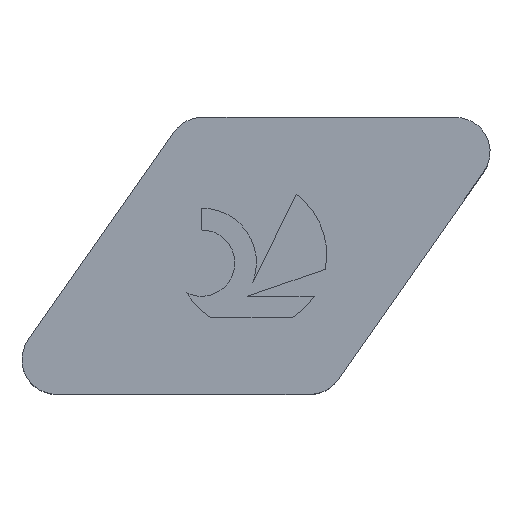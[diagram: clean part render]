
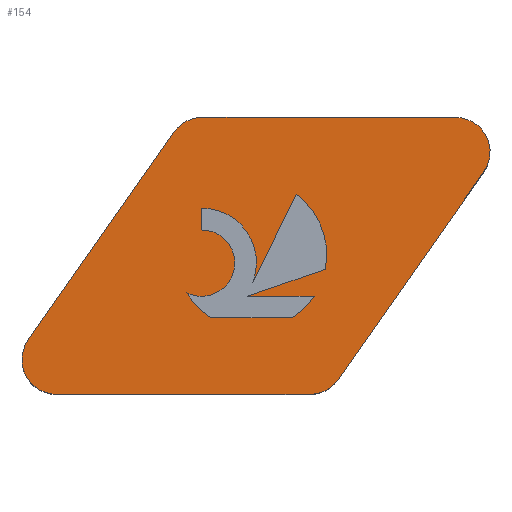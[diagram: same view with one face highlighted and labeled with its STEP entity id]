
A CAD part, top view. The second image highlights one B-rep face of the part: STEP entity #154.
In plain terms, the highlighted planar face has unit normal (0, 0, 1).
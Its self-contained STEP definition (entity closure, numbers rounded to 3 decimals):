
#142=EDGE_CURVE('',#282,#270,#394,.T.);
#150=VERTEX_POINT('',#402);
#152=VERTEX_POINT('',#404);
#154=ADVANCED_FACE('',(#406,#407),#408,.T.);
#156=EDGE_CURVE('',#280,#276,#410,.T.);
#164=EDGE_CURVE('',#206,#352,#418,.T.);
#168=EDGE_CURVE('',#352,#280,#422,.T.);
#170=VERTEX_POINT('',#424);
#178=VERTEX_POINT('',#432);
#186=EDGE_CURVE('',#232,#152,#440,.T.);
#196=EDGE_CURVE('',#248,#282,#452,.T.);
#202=EDGE_CURVE('',#170,#376,#458,.T.);
#204=VERTEX_POINT('',#460);
#206=VERTEX_POINT('',#462);
#210=VERTEX_POINT('',#466);
#212=EDGE_CURVE('',#360,#214,#468,.T.);
#214=VERTEX_POINT('',#470);
#216=EDGE_CURVE('',#270,#226,#472,.T.);
#226=VERTEX_POINT('',#484);
#232=VERTEX_POINT('',#492);
#240=EDGE_CURVE('',#150,#210,#500,.T.);
#242=EDGE_CURVE('',#210,#248,#502,.T.);
#248=VERTEX_POINT('',#508);
#270=VERTEX_POINT('',#534);
#276=VERTEX_POINT('',#541);
#278=EDGE_CURVE('',#152,#204,#543,.T.);
#280=VERTEX_POINT('',#545);
#282=VERTEX_POINT('',#547);
#292=EDGE_CURVE('',#214,#206,#559,.T.);
#294=EDGE_CURVE('',#276,#170,#561,.T.);
#296=VERTEX_POINT('',#563);
#310=EDGE_CURVE('',#296,#150,#580,.T.);
#314=EDGE_CURVE('',#226,#178,#584,.T.);
#336=EDGE_CURVE('',#376,#232,#609,.T.);
#352=VERTEX_POINT('',#627);
#356=EDGE_CURVE('',#204,#360,#631,.T.);
#358=EDGE_CURVE('',#178,#296,#633,.T.);
#360=VERTEX_POINT('',#635);
#376=VERTEX_POINT('',#651);
#394=CIRCLE('',#660,1.191);
#402=CARTESIAN_POINT('',(2.288,0.0,0.0));
#404=CARTESIAN_POINT('',(8.863,3.376,0.0));
#406=FACE_BOUND('',#671,.T.);
#407=FACE_OUTER_BOUND('',#672,.T.);
#408=PLANE('',#673);
#410=LINE('',#676,#677);
#418=CIRCLE('',#688,1.141);
#422=CIRCLE('',#694,1.141);
#424=CARTESIAN_POINT('',(9.038,3.853,0.0));
#432=CARTESIAN_POINT('',(6.314,9.017,0.0));
#440=LINE('',#721,#722);
#452=LINE('',#739,#740);
#458=LINE('',#751,#752);
#460=CARTESIAN_POINT('',(11.147,3.376,0.0));
#462=CARTESIAN_POINT('',(6.767,3.493,0.0));
#466=CARTESIAN_POINT('',(11.008,0.0,0.0));
#468=LINE('',#765,#766);
#470=CARTESIAN_POINT('',(7.585,2.64,0.0));
#472=LINE('',#771,#772);
#484=CARTESIAN_POINT('',(7.289,9.525,0.0));
#492=CARTESIAN_POINT('',(11.53,4.302,0.0));
#500=LINE('',#808,#809);
#502=CIRCLE('',#812,1.191);
#508=CARTESIAN_POINT('',(11.983,0.508,0.0));
#534=CARTESIAN_POINT('',(16.009,9.525,0.0));
#541=CARTESIAN_POINT('',(7.271,6.406,0.0));
#543=LINE('',#864,#865);
#545=CARTESIAN_POINT('',(7.271,5.655,0.0));
#547=CARTESIAN_POINT('',(16.985,7.651,0.0));
#559=CIRCLE('',#885,2.586);
#561=CIRCLE('',#888,1.878);
#563=CARTESIAN_POINT('',(1.312,1.874,0.0));
#580=CIRCLE('',#914,1.191);
#584=CIRCLE('',#920,1.191);
#609=CIRCLE('',#953,2.586);
#627=CARTESIAN_POINT('',(7.789,5.535,0.0));
#631=CIRCLE('',#980,2.586);
#633=LINE('',#983,#984);
#635=CARTESIAN_POINT('',(10.403,2.64,0.0));
#651=CARTESIAN_POINT('',(10.533,6.885,0.0));
#660=AXIS2_PLACEMENT_3D('',#1011,#1012,#1013);
#671=EDGE_LOOP('',(#1016,#1017,#1018,#1019,#1020,#1021,#1022,#1023,#1024,#1025,#1026));
#672=EDGE_LOOP('',(#1027,#1028,#1029,#1030,#1031,#1032,#1033,#1034));
#673=AXIS2_PLACEMENT_3D('',#1035,#1036,#1037);
#676=CARTESIAN_POINT('',(7.271,5.584,0.0));
#677=VECTOR('',#1038,1.0);
#688=AXIS2_PLACEMENT_3D('',#1045,#1046,#1047);
#694=AXIS2_PLACEMENT_3D('',#1051,#1052,#1053);
#721=CARTESIAN_POINT('',(9.205,3.495,0.0));
#722=VECTOR('',#1058,1.0);
#739=CARTESIAN_POINT('',(11.983,0.508,0.0));
#740=VECTOR('',#1077,1.0);
#751=CARTESIAN_POINT('',(9.977,5.757,0.0));
#752=VECTOR('',#1080,1.0);
#765=CARTESIAN_POINT('',(8.367,2.64,0.0));
#766=VECTOR('',#1082,1.0);
#771=CARTESIAN_POINT('',(16.009,9.525,0.0));
#772=VECTOR('',#1083,1.0);
#808=CARTESIAN_POINT('',(2.288,0.0,0.0));
#809=VECTOR('',#1122,1.0);
#812=AXIS2_PLACEMENT_3D('',#1123,#1124,#1125);
#864=CARTESIAN_POINT('',(10.148,3.376,0.0));
#865=VECTOR('',#1180,1.0);
#885=AXIS2_PLACEMENT_3D('',#1201,#1202,#1203);
#888=AXIS2_PLACEMENT_3D('',#1204,#1205,#1206);
#914=AXIS2_PLACEMENT_3D('',#1241,#1242,#1243);
#920=AXIS2_PLACEMENT_3D('',#1247,#1248,#1249);
#953=AXIS2_PLACEMENT_3D('',#1280,#1281,#1282);
#980=AXIS2_PLACEMENT_3D('',#1301,#1302,#1303);
#983=CARTESIAN_POINT('',(6.314,9.017,0.0));
#984=VECTOR('',#1304,1.0);
#1011=CARTESIAN_POINT('',(16.009,8.334,0.0));
#1012=DIRECTION('',(-0.0,0.0,1.0));
#1013=DIRECTION('',(0.819,-0.574,0.0));
#1016=ORIENTED_EDGE('',*,*,#156,.T.);
#1017=ORIENTED_EDGE('',*,*,#294,.T.);
#1018=ORIENTED_EDGE('',*,*,#202,.T.);
#1019=ORIENTED_EDGE('',*,*,#336,.T.);
#1020=ORIENTED_EDGE('',*,*,#186,.T.);
#1021=ORIENTED_EDGE('',*,*,#278,.T.);
#1022=ORIENTED_EDGE('',*,*,#356,.T.);
#1023=ORIENTED_EDGE('',*,*,#212,.T.);
#1024=ORIENTED_EDGE('',*,*,#292,.T.);
#1025=ORIENTED_EDGE('',*,*,#164,.T.);
#1026=ORIENTED_EDGE('',*,*,#168,.T.);
#1027=ORIENTED_EDGE('',*,*,#240,.T.);
#1028=ORIENTED_EDGE('',*,*,#242,.T.);
#1029=ORIENTED_EDGE('',*,*,#196,.T.);
#1030=ORIENTED_EDGE('',*,*,#142,.T.);
#1031=ORIENTED_EDGE('',*,*,#216,.T.);
#1032=ORIENTED_EDGE('',*,*,#314,.T.);
#1033=ORIENTED_EDGE('',*,*,#358,.T.);
#1034=ORIENTED_EDGE('',*,*,#310,.T.);
#1035=CARTESIAN_POINT('',(9.149,4.763,0.0));
#1036=DIRECTION('',(0.0,0.0,1.0));
#1037=DIRECTION('',(1.0,0.0,0.0));
#1038=DIRECTION('',(0.0,1.0,0.0));
#1045=CARTESIAN_POINT('',(7.278,4.514,0.0));
#1046=DIRECTION('',(0.0,0.0,1.0));
#1047=DIRECTION('',(-0.447,-0.894,0.0));
#1051=CARTESIAN_POINT('',(7.278,4.514,0.0));
#1052=DIRECTION('',(0.0,0.0,1.0));
#1053=DIRECTION('',(-0.447,-0.894,0.0));
#1058=DIRECTION('',(-0.945,-0.328,0.0));
#1077=DIRECTION('',(0.574,0.819,0.0));
#1080=DIRECTION('',(0.442,0.897,-0.0));
#1082=DIRECTION('',(-1.0,0.0,0.0));
#1083=DIRECTION('',(-1.0,0.0,0.0));
#1122=DIRECTION('',(1.0,0.0,0.0));
#1123=CARTESIAN_POINT('',(11.008,1.191,0.0));
#1124=DIRECTION('',(0.0,0.0,1.0));
#1125=DIRECTION('',(0.,-1.0,0.0));
#1180=DIRECTION('',(1.0,0.0,0.0));
#1201=CARTESIAN_POINT('',(8.994,4.808,0.0));
#1202=DIRECTION('',(-0.0,0.0,-1.0));
#1203=DIRECTION('',(-0.861,-0.508,0.0));
#1204=CARTESIAN_POINT('',(7.285,4.528,0.0));
#1205=DIRECTION('',(0.0,-0.0,-1.0));
#1206=DIRECTION('',(0.933,-0.359,0.0));
#1241=CARTESIAN_POINT('',(2.288,1.191,0.0));
#1242=DIRECTION('',(0.0,0.0,1.0));
#1243=DIRECTION('',(-0.819,0.574,0.0));
#1247=CARTESIAN_POINT('',(7.289,8.334,0.0));
#1248=DIRECTION('',(0.0,0.0,1.0));
#1249=DIRECTION('',(0.,1.0,0.0));
#1280=CARTESIAN_POINT('',(8.994,4.808,0.0));
#1281=DIRECTION('',(0.0,-0.0,-1.0));
#1282=DIRECTION('',(0.981,-0.196,0.0));
#1301=CARTESIAN_POINT('',(8.994,4.808,0.0));
#1302=DIRECTION('',(0.0,-0.0,-1.0));
#1303=DIRECTION('',(0.545,-0.838,0.0));
#1304=DIRECTION('',(-0.574,-0.819,0.0));
